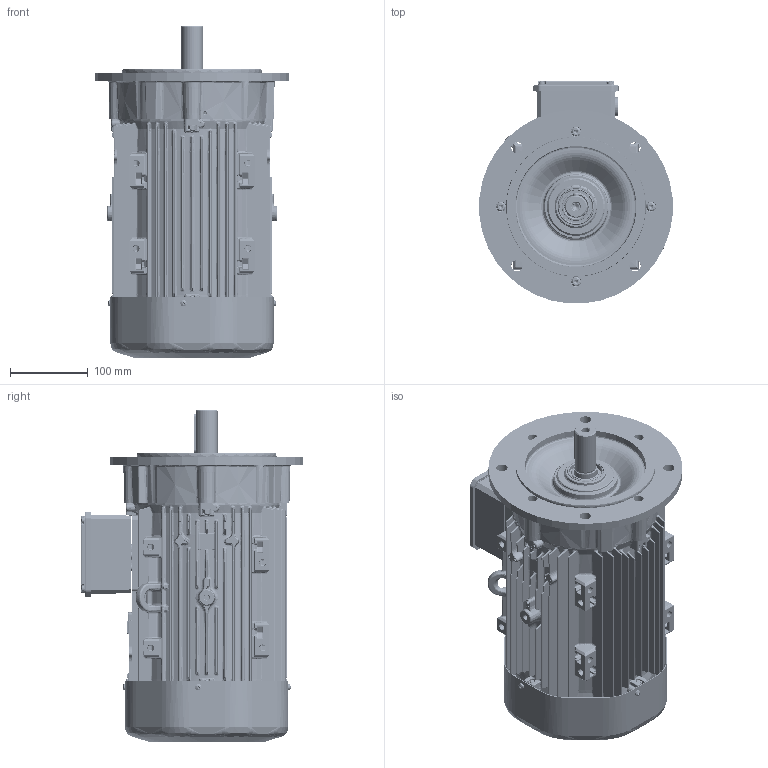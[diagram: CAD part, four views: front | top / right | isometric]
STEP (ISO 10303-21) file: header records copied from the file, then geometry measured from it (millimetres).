
FILE_DESCRIPTION(/* description */ (''),/* implementation_level */ '2;1');
FILE_NAME(/* name */ 'OUTLOOK VIEW QH112 FA B5 FF215 SPL.stp',/* time_stamp */ '2021-09-21T14:58:11+03:00',/* author */ (''),/* organization */ (''),/* preprocessor_version */ 'ST-DEVELOPER v16',/* originating_system */ 'SIEMENS PLM Software NX 11.0',/* authorisation */ '');
FILE_SCHEMA (('AUTOMOTIVE_DESIGN { 1 0 10303 214 3 1 1 1 }'));
Products named in the file (1): 260652D491E0rx7c
Bounding box: 249.05 x 287.02 x 427.6 mm (x, y, z)
Volume: 2661586.4 mm3; surface area: 1230408.9 mm2
Topology: 65 solids, 71 shells, 11809 faces, 27886 edges, 15817 vertices
Faces by surface type: cylinder 3769, bspline 3744, plane 2228, sphere 862, torus 611, cone 585, extrusion 10
Full cylindrical faces by diameter (mm): 2 x14, 3 x2, 3.3 x4, 3.7 x4, 3.985 x1, 4 x9, 4.22 x1, 4.6 x3, 4.722 x2, 5 x11, 6 x8, 6.4 x8, 6.6 x4, 8 x9, 8.5 x1, 10 x8, 10.5 x1, 12 x8, 12.5 x4, 14.5 x4, 23.38 x2, 24.4 x1, 25 x3, 27.4 x1, 28 x1, 28.6 x1, 29.4 x2, 30 x5, 30.2 x1, 30.5 x1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
Entity records: 409418 total; most frequent: CARTESIAN_POINT 163087, ORIENTED_EDGE 53316, DIRECTION 48382, EDGE_CURVE 26658, AXIS2_PLACEMENT_3D 20108, VERTEX_POINT 15625, EDGE_LOOP 12885, ADVANCED_FACE 11802
